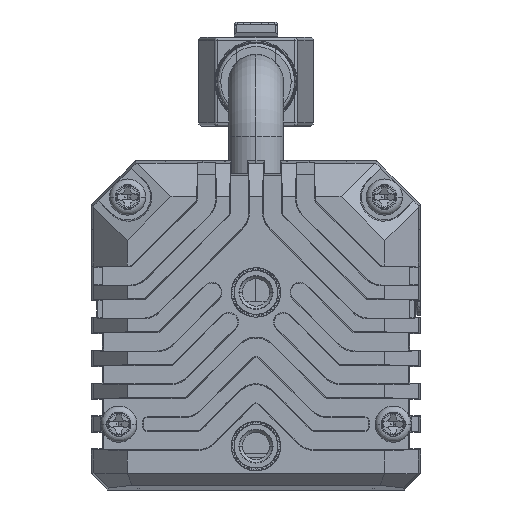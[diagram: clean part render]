
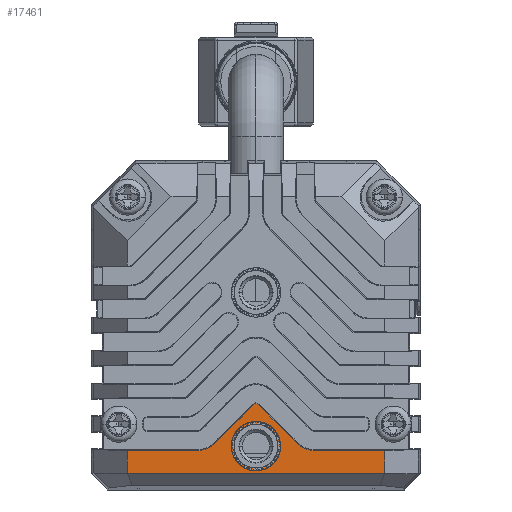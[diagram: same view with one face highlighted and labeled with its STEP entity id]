
A CAD part, left-side view. The second image highlights one B-rep face of the part: STEP entity #17461.
In plain terms, the highlighted planar face has unit normal (-1, 0, 0) as drawn and (1, 0, 0) by its records, which use the part's own axes.
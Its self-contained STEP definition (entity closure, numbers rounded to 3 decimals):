
#10369=CARTESIAN_POINT('',(5.,0.,7.527));
#10370=DIRECTION('',(1.,0.,0.));
#10371=DIRECTION('',(0.,0.707,0.707));
#10372=AXIS2_PLACEMENT_3D('',#10369,#10370,#10371);
#10378=DIRECTION('',(0.,0.707,-0.707));
#10379=VECTOR('',#10378,5.013);
#10380=CARTESIAN_POINT('',(5.,0.242,7.769));
#10381=LINE('',#10380,#10379);
#10385=DIRECTION('',(0.,-1.,0.));
#10386=VECTOR('',#10385,6.438);
#10387=CARTESIAN_POINT('',(5.,11.75,3.593));
#10388=LINE('',#10387,#10386);
#10392=DIRECTION('',(0.,0.,1.));
#10393=VECTOR('',#10392,2.093);
#10394=CARTESIAN_POINT('',(5.,11.75,1.5));
#10395=LINE('',#10394,#10393);
#10399=DIRECTION('',(0.,1.,0.));
#10400=VECTOR('',#10399,23.5);
#10401=CARTESIAN_POINT('',(5.,-11.75,1.5));
#10402=LINE('',#10401,#10400);
#10406=DIRECTION('',(0.,0.,-1.));
#10407=VECTOR('',#10406,2.093);
#10408=CARTESIAN_POINT('',(5.,-11.75,3.593));
#10409=LINE('',#10408,#10407);
#10413=DIRECTION('',(0.,1.,0.));
#10414=VECTOR('',#10413,6.438);
#10415=CARTESIAN_POINT('',(5.,-11.75,3.593));
#10416=LINE('',#10415,#10414);
#10420=DIRECTION('',(0.,0.707,0.707));
#10421=VECTOR('',#10420,5.013);
#10422=CARTESIAN_POINT('',(5.,-3.787,4.225));
#10423=LINE('',#10422,#10421);
#10427=CARTESIAN_POINT('',(5.,0.,4.));
#10428=DIRECTION('',(1.,0.,0.));
#10429=DIRECTION('',(0.,1.,0.));
#10430=AXIS2_PLACEMENT_3D('',#10427,#10428,#10429);
#10435=CARTESIAN_POINT('',(5.,0.,4.));
#10436=DIRECTION('',(1.,0.,0.));
#10437=DIRECTION('',(0.,-1.,0.));
#10438=AXIS2_PLACEMENT_3D('',#10435,#10436,#10437);
#11164=CARTESIAN_POINT('',(5.,-5.312,5.75));
#11165=DIRECTION('',(-1.,0.,0.));
#11166=DIRECTION('',(0.,0.707,-0.707));
#11167=AXIS2_PLACEMENT_3D('',#11164,#11165,#11166);
#14683=CARTESIAN_POINT('',(5.,5.312,5.75));
#14684=DIRECTION('',(-1.,0.,0.));
#14685=DIRECTION('',(0.,0.,-1.));
#14686=AXIS2_PLACEMENT_3D('',#14683,#14684,#14685);
#16356=CARTESIAN_POINT('',(5.,2.,4.));
#16357=CARTESIAN_POINT('',(5.,-2.,4.));
#16358=VERTEX_POINT('',#16356);
#16359=VERTEX_POINT('',#16357);
#16360=CARTESIAN_POINT('',(5.,-11.75,1.5));
#16361=CARTESIAN_POINT('',(5.,11.75,1.5));
#16362=VERTEX_POINT('',#16360);
#16363=VERTEX_POINT('',#16361);
#16462=CARTESIAN_POINT('',(5.,5.312,3.593));
#16463=VERTEX_POINT('',#16462);
#16464=CARTESIAN_POINT('',(5.,3.787,4.225));
#16465=VERTEX_POINT('',#16464);
#16470=CARTESIAN_POINT('',(5.,-3.787,4.225));
#16471=VERTEX_POINT('',#16470);
#16472=CARTESIAN_POINT('',(5.,-5.312,3.593));
#16473=VERTEX_POINT('',#16472);
#16550=CARTESIAN_POINT('',(5.,-11.75,3.593));
#16551=VERTEX_POINT('',#16550);
#16552=CARTESIAN_POINT('',(5.,11.75,3.593));
#16553=VERTEX_POINT('',#16552);
#16570=CARTESIAN_POINT('',(5.,0.242,7.769));
#16571=CARTESIAN_POINT('',(5.,-0.242,7.769));
#16572=VERTEX_POINT('',#16570);
#16573=VERTEX_POINT('',#16571);
#17428=CARTESIAN_POINT('',(5.,0.,0.));
#17429=DIRECTION('',(1.,0.,0.));
#17430=DIRECTION('',(0.,1.,0.));
#17431=AXIS2_PLACEMENT_3D('',#17428,#17429,#17430);
#17432=PLANE('',#17431);
#17434=ORIENTED_EDGE('',*,*,#17433,.F.);
#17436=ORIENTED_EDGE('',*,*,#17435,.T.);
#17438=ORIENTED_EDGE('',*,*,#17437,.F.);
#17440=ORIENTED_EDGE('',*,*,#17439,.F.);
#17442=ORIENTED_EDGE('',*,*,#17441,.F.);
#17444=ORIENTED_EDGE('',*,*,#17443,.F.);
#17446=ORIENTED_EDGE('',*,*,#17445,.F.);
#17448=ORIENTED_EDGE('',*,*,#17447,.T.);
#17450=ORIENTED_EDGE('',*,*,#17449,.F.);
#17452=ORIENTED_EDGE('',*,*,#17451,.T.);
#17453=EDGE_LOOP('',(#17434,#17436,#17438,#17440,#17442,#17444,#17446,#17448,
#17450,#17452));
#17454=FACE_OUTER_BOUND('',#17453,.F.);
#17456=ORIENTED_EDGE('',*,*,#17455,.T.);
#17458=ORIENTED_EDGE('',*,*,#17457,.T.);
#17459=EDGE_LOOP('',(#17456,#17458));
#17460=FACE_BOUND('',#17459,.F.);
#10373=CIRCLE('',#10372,0.343);
#10431=CIRCLE('',#10430,2.);
#10439=CIRCLE('',#10438,2.);
#11168=CIRCLE('',#11167,2.157);
#14687=CIRCLE('',#14686,2.157);
#17433=EDGE_CURVE('',#16572,#16573,#10373,.T.);
#17435=EDGE_CURVE('',#16572,#16465,#10381,.T.);
#17437=EDGE_CURVE('',#16463,#16465,#14687,.T.);
#17439=EDGE_CURVE('',#16553,#16463,#10388,.T.);
#17441=EDGE_CURVE('',#16363,#16553,#10395,.T.);
#17443=EDGE_CURVE('',#16362,#16363,#10402,.T.);
#17445=EDGE_CURVE('',#16551,#16362,#10409,.T.);
#17447=EDGE_CURVE('',#16551,#16473,#10416,.T.);
#17449=EDGE_CURVE('',#16471,#16473,#11168,.T.);
#17451=EDGE_CURVE('',#16471,#16573,#10423,.T.);
#17455=EDGE_CURVE('',#16358,#16359,#10431,.T.);
#17457=EDGE_CURVE('',#16359,#16358,#10439,.T.);
#17461=ADVANCED_FACE('',(#17454,#17460),#17432,.T.);
